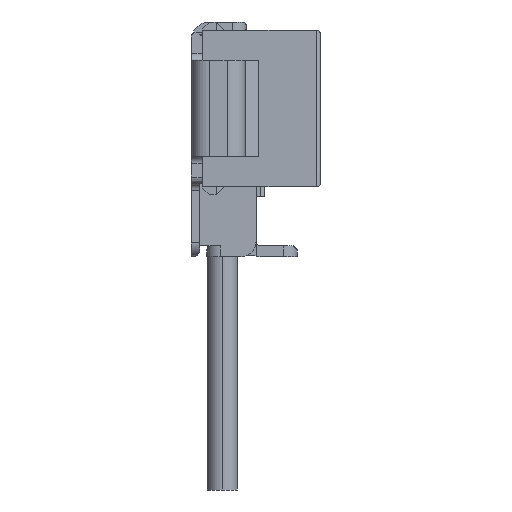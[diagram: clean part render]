
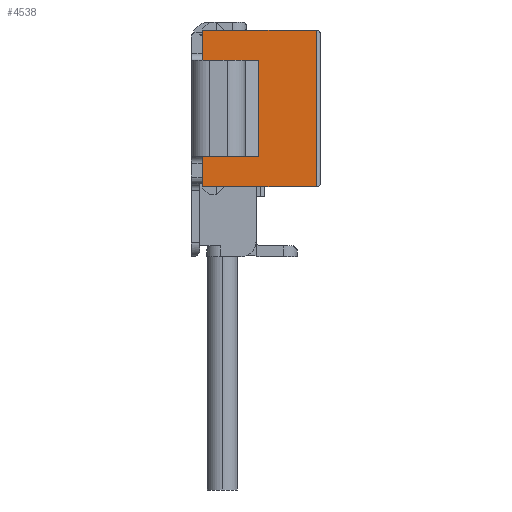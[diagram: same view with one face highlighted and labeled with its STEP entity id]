
A CAD part, left-side view. The second image highlights one B-rep face of the part: STEP entity #4538.
In plain terms, the highlighted planar face has unit normal (-1, 0, 0).
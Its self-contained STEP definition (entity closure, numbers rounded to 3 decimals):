
#169 = EDGE_CURVE ( 'NONE', #6599, #9065, #29573, .T. ) ;
#269 = ORIENTED_EDGE ( 'NONE', *, *, #14949, .T. ) ;
#1323 = ORIENTED_EDGE ( 'NONE', *, *, #15367, .T. ) ;
#1364 = DIRECTION ( 'NONE',  ( 0., 0., 1. ) ) ;
#1393 = VERTEX_POINT ( 'NONE', #22487 ) ;
#1420 = CARTESIAN_POINT ( 'NONE',  ( -1.65, 0.77, 0.354 ) ) ;
#1425 = VERTEX_POINT ( 'NONE', #6876 ) ;
#1583 = PLANE ( 'NONE',  #26013 ) ;
#2182 = EDGE_CURVE ( 'NONE', #9288, #6599, #8734, .T. ) ;
#3070 = VECTOR ( 'NONE', #14319, 1000. ) ;
#3106 = DIRECTION ( 'NONE',  ( 0., 1., 0. ) ) ;
#3203 = CARTESIAN_POINT ( 'NONE',  ( -1.65, 0.77, 0.57 ) ) ;
#3537 = LINE ( 'NONE', #19914, #27118 ) ;
#3725 = CARTESIAN_POINT ( 'NONE',  ( -1.65, 0.77, -0.35 ) ) ;
#3843 = EDGE_CURVE ( 'NONE', #10315, #18098, #26544, .T. ) ;
#4113 = LINE ( 'NONE', #20497, #4185 ) ;
#4161 = ORIENTED_EDGE ( 'NONE', *, *, #29797, .T. ) ;
#4185 = VECTOR ( 'NONE', #13228, 1000. ) ;
#4538 = ADVANCED_FACE ( 'NONE', ( #22362 ), #1583, .F. ) ;
#4665 = ORIENTED_EDGE ( 'NONE', *, *, #3843, .F. ) ;
#4710 = EDGE_CURVE ( 'NONE', #9065, #1393, #24000, .T. ) ;
#5344 = ORIENTED_EDGE ( 'NONE', *, *, #169, .T. ) ;
#5562 = DIRECTION ( 'NONE',  ( 0., 0., -1. ) ) ;
#6071 = CARTESIAN_POINT ( 'NONE',  ( -1.65, 0.77, -0.35 ) ) ;
#6599 = VERTEX_POINT ( 'NONE', #25619 ) ;
#6609 = DIRECTION ( 'NONE',  ( 0., 0., -1. ) ) ;
#6626 = DIRECTION ( 'NONE',  ( 0., -1., 0. ) ) ;
#6689 = DIRECTION ( 'NONE',  ( 0., 0., -1. ) ) ;
#6796 = CARTESIAN_POINT ( 'NONE',  ( -1.65, -0.06, 0.54 ) ) ;
#6876 = CARTESIAN_POINT ( 'NONE',  ( -1.65, 0.36, -0.35 ) ) ;
#6895 = VECTOR ( 'NONE', #6626, 1000. ) ;
#8335 = VECTOR ( 'NONE', #3106, 1000. ) ;
#8606 = ORIENTED_EDGE ( 'NONE', *, *, #2182, .T. ) ;
#8734 = LINE ( 'NONE', #3725, #28400 ) ;
#8947 = VECTOR ( 'NONE', #6689, 1000. ) ;
#9065 = VERTEX_POINT ( 'NONE', #29580 ) ;
#9288 = VERTEX_POINT ( 'NONE', #24096 ) ;
#9902 = CARTESIAN_POINT ( 'NONE',  ( -1.65, 0.77, -0.57 ) ) ;
#10128 = CARTESIAN_POINT ( 'NONE',  ( -1.65, 0.36, 0.35 ) ) ;
#10315 = VERTEX_POINT ( 'NONE', #15496 ) ;
#10618 = CARTESIAN_POINT ( 'NONE',  ( -1.65, 0.77, -0.7 ) ) ;
#11493 = DIRECTION ( 'NONE',  ( 0., 0., 1. ) ) ;
#11700 = VECTOR ( 'NONE', #5562, 1000. ) ;
#11761 = VERTEX_POINT ( 'NONE', #3203 ) ;
#12071 = LINE ( 'NONE', #12220, #8335 ) ;
#12220 = CARTESIAN_POINT ( 'NONE',  ( -1.65, 0.77, -0.35 ) ) ;
#12648 = DIRECTION ( 'NONE',  ( 0., 1., 0. ) ) ;
#12944 = EDGE_LOOP ( 'NONE', ( #22400, #21759, #4161, #16995, #4665, #27128, #269, #1323, #8606, #5344 ) ) ;
#13228 = DIRECTION ( 'NONE',  ( 0., 0., -1. ) ) ;
#14319 = DIRECTION ( 'NONE',  ( 0., -1., 0. ) ) ;
#14949 = EDGE_CURVE ( 'NONE', #27302, #1425, #18924, .T. ) ;
#15246 = EDGE_CURVE ( 'NONE', #10315, #27302, #27984, .T. ) ;
#15367 = EDGE_CURVE ( 'NONE', #1425, #9288, #12071, .T. ) ;
#15496 = CARTESIAN_POINT ( 'NONE',  ( -1.65, 0.77, 0.35 ) ) ;
#15549 = CARTESIAN_POINT ( 'NONE',  ( -1.65, 0.35, -0.7 ) ) ;
#15951 = CARTESIAN_POINT ( 'NONE',  ( -1.65, -0.06, 0.57 ) ) ;
#16796 = CARTESIAN_POINT ( 'NONE',  ( -1.65, 0.36, 0.45 ) ) ;
#16995 = ORIENTED_EDGE ( 'NONE', *, *, #24281, .T. ) ;
#18098 = VERTEX_POINT ( 'NONE', #1420 ) ;
#18622 = VERTEX_POINT ( 'NONE', #15951 ) ;
#18924 = LINE ( 'NONE', #16796, #11700 ) ;
#19914 = CARTESIAN_POINT ( 'NONE',  ( -1.65, -0.06, 0.57 ) ) ;
#20497 = CARTESIAN_POINT ( 'NONE',  ( -1.65, 0.77, 0.57 ) ) ;
#21759 = ORIENTED_EDGE ( 'NONE', *, *, #29204, .T. ) ;
#22067 = DIRECTION ( 'NONE',  ( 1., 0., 0. ) ) ;
#22362 = FACE_OUTER_BOUND ( 'NONE', #12944, .T. ) ;
#22400 = ORIENTED_EDGE ( 'NONE', *, *, #4710, .T. ) ;
#22487 = CARTESIAN_POINT ( 'NONE',  ( -1.65, -0.06, -0.57 ) ) ;
#23010 = LINE ( 'NONE', #6796, #28549 ) ;
#23563 = VECTOR ( 'NONE', #1364, 1000. ) ;
#24000 = LINE ( 'NONE', #9902, #3070 ) ;
#24096 = CARTESIAN_POINT ( 'NONE',  ( -1.65, 0.77, -0.35 ) ) ;
#24281 = EDGE_CURVE ( 'NONE', #11761, #18098, #4113, .T. ) ;
#24788 = DIRECTION ( 'NONE',  ( 0., 0., -1. ) ) ;
#25410 = CARTESIAN_POINT ( 'NONE',  ( -1.65, 0.77, 0.35 ) ) ;
#25619 = CARTESIAN_POINT ( 'NONE',  ( -1.65, 0.77, -0.354 ) ) ;
#26013 = AXIS2_PLACEMENT_3D ( 'NONE', #15549, #22067, #24788 ) ;
#26544 = LINE ( 'NONE', #10618, #23563 ) ;
#27118 = VECTOR ( 'NONE', #12648, 1000. ) ;
#27128 = ORIENTED_EDGE ( 'NONE', *, *, #15246, .T. ) ;
#27302 = VERTEX_POINT ( 'NONE', #10128 ) ;
#27984 = LINE ( 'NONE', #25410, #6895 ) ;
#28400 = VECTOR ( 'NONE', #6609, 1000. ) ;
#28549 = VECTOR ( 'NONE', #11493, 1000. ) ;
#29204 = EDGE_CURVE ( 'NONE', #1393, #18622, #23010, .T. ) ;
#29573 = LINE ( 'NONE', #6071, #8947 ) ;
#29580 = CARTESIAN_POINT ( 'NONE',  ( -1.65, 0.77, -0.57 ) ) ;
#29797 = EDGE_CURVE ( 'NONE', #18622, #11761, #3537, .T. ) ;
